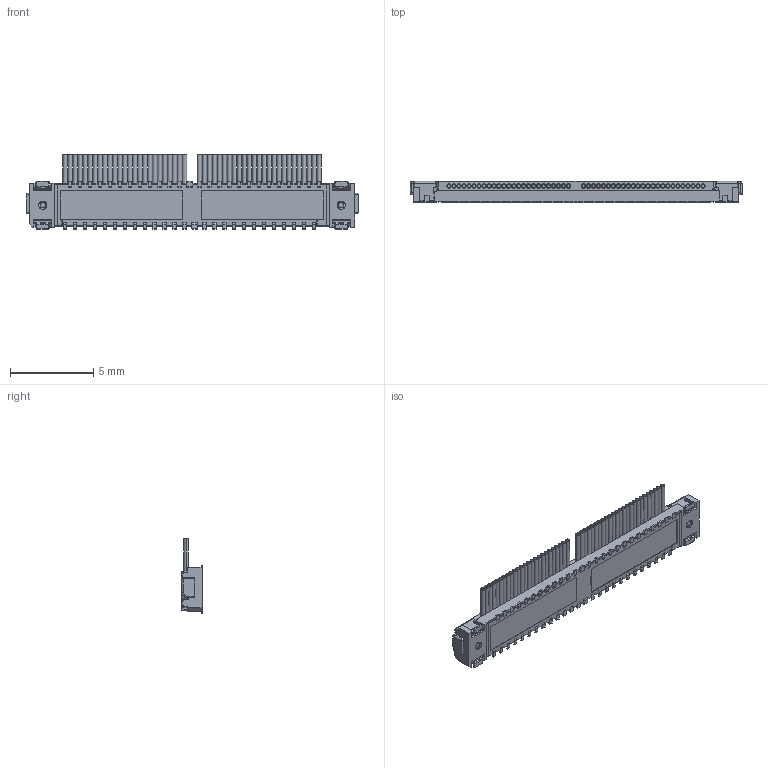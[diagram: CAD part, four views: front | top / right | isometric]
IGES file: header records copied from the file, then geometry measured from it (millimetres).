
Start section: SolidWorks IGES file using analytic representation for surfaces
Global section: file name: C:\Users\3dcad\Desktop\CABLINE-UAII 3D蹬偯(IGES)\20496-050xxxC+20498-050ExxxC MATING IGES R1R2 ALL.IGS,1; native system: 5HSolidWorks 2011; preprocessor: SolidWorks 2011; author: 3dcad; date: 130423.134540; units: millimetre
Bounding box: 20 x 1.27 x 4.49 mm (x, y, z)
Surface area: 347.9 mm2 (no closed solid volume)
Topology: 0 solids, 0 shells, 1642 faces, 12804 edges, 12796 vertices
Faces by surface type: bspline 1132, revolution 510
